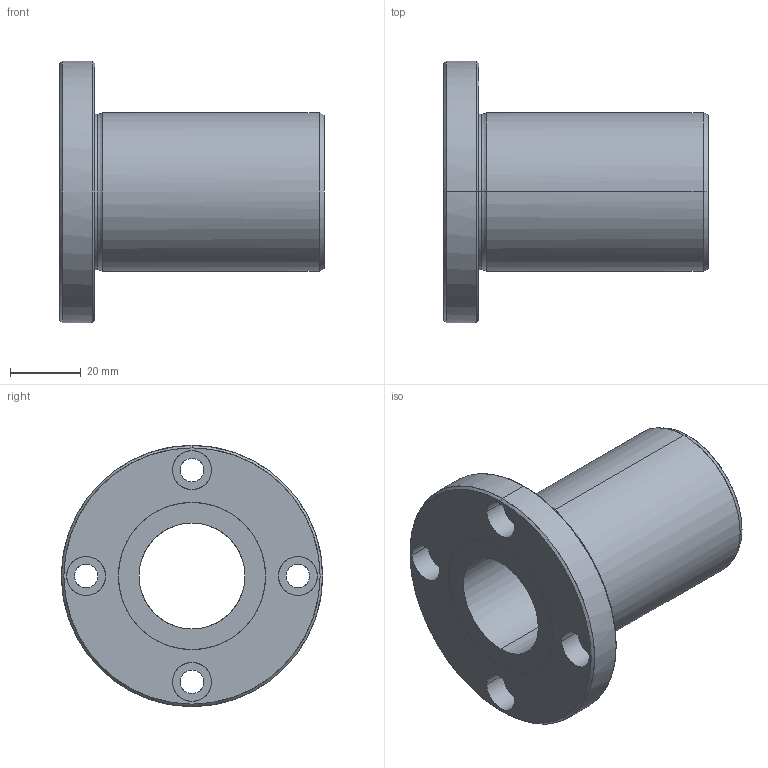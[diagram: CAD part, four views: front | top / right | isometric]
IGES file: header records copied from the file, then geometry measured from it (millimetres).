
Global section: file name: No Iges File Name specified; native system: AutoDesk Inventor R10; preprocessor: AutoDesk Inventor Iges Exporter R10; author: No Author specified; organization: No Organization specified; date: 20101216.173100; units: millimetre
Bounding box: 75 x 74 x 74 mm (x, y, z)
Surface area: 26486.8 mm2 (no closed solid volume)
Topology: 0 solids, 0 shells, 45 faces, 320 edges, 320 vertices
Faces by surface type: bspline 45
